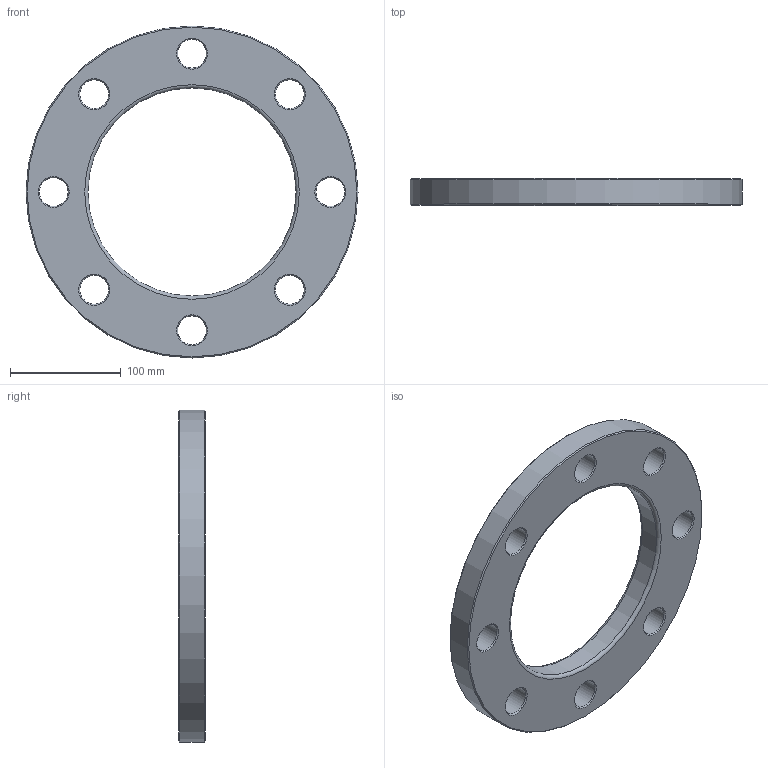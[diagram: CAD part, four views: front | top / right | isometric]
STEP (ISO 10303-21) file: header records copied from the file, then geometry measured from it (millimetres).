
FILE_DESCRIPTION(/* description */ ('Unknown'),/* implementation_level */ '2;1');
FILE_NAME(/* name */ 'FZ180L',/* time_stamp */ '2021-03-15T15:29:29+01:00',/* author */ ('Unknown'),/* organization */ ('Unknown'),/* preprocessor_version */ 'ST-DEVELOPER v16.7',/* originating_system */ 'Solid Edge',/* authorisation */ 'Unknown');
FILE_SCHEMA (('AUTOMOTIVE_DESIGN {1 0 10303 214 3 1 1}'));
Length unit declared in the file: millimetre
Products named in the file (1): FZ180L
Bounding box: 300 x 24 x 300 mm (x, y, z)
Volume: 924394.6 mm3; surface area: 126471.2 mm2
Topology: 1 solids, 1 shells, 32 faces, 94 edges, 64 vertices
Faces by surface type: cone 18, cylinder 10, plane 2, torus 2
Full cylindrical faces by diameter (mm): 26 x8, 188 x1, 300 x1
Entity records: 790 total; most frequent: DIRECTION 146, CARTESIAN_POINT 113, ORIENTED_EDGE 80, EDGE_LOOP 80, FACE_BOUND 80, AXIS2_PLACEMENT_3D 73, EDGE_CURVE 40, VERTEX_POINT 40
